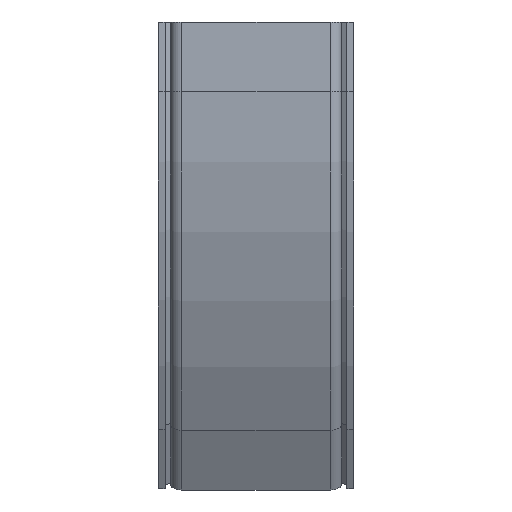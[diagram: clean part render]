
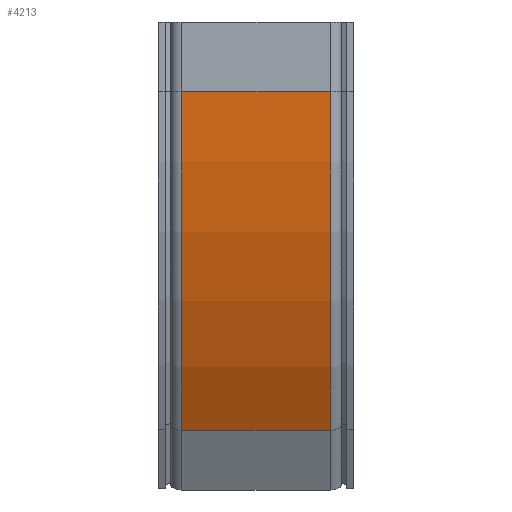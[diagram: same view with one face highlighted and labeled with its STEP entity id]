
A CAD part, left-side view. The second image highlights one B-rep face of the part: STEP entity #4213.
In plain terms, the highlighted cylindrical face has radius 392.5 mm (diameter 785 mm), a partial arc.
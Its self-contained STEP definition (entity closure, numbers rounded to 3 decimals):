
#148 = CARTESIAN_POINT ( 'NONE',  ( 350., -43., -40. ) ) ;
#255 = LINE ( 'NONE', #4714, #4229 ) ;
#278 = DIRECTION ( 'NONE',  ( 0., 1., 0. ) ) ;
#388 = EDGE_CURVE ( 'NONE', #907, #2530, #1961, .T. ) ;
#398 = CARTESIAN_POINT ( 'NONE',  ( 10.085, -43., -236.25 ) ) ;
#733 = AXIS2_PLACEMENT_3D ( 'NONE', #3989, #5093, #2152 ) ;
#895 = DIRECTION ( 'NONE',  ( 0., 1., 0. ) ) ;
#907 = VERTEX_POINT ( 'NONE', #4369 ) ;
#956 = ORIENTED_EDGE ( 'NONE', *, *, #3459, .T. ) ;
#1040 = ORIENTED_EDGE ( 'NONE', *, *, #4143, .T. ) ;
#1120 = CARTESIAN_POINT ( 'NONE',  ( -42.5, -43., -40. ) ) ;
#1196 = FACE_OUTER_BOUND ( 'NONE', #3946, .T. ) ;
#1844 = DIRECTION ( 'NONE',  ( 0., 1., 0. ) ) ;
#1856 = EDGE_CURVE ( 'NONE', #1945, #2530, #2761, .T. ) ;
#1908 = AXIS2_PLACEMENT_3D ( 'NONE', #2226, #895, #2963 ) ;
#1945 = VERTEX_POINT ( 'NONE', #1120 ) ;
#1961 = CIRCLE ( 'NONE', #733, 392.5 ) ;
#2053 = CYLINDRICAL_SURFACE ( 'NONE', #1908, 392.5 ) ;
#2084 = CARTESIAN_POINT ( 'NONE',  ( -42.5, 43., -40. ) ) ;
#2091 = CARTESIAN_POINT ( 'NONE',  ( -42.5, 0., -40. ) ) ;
#2152 = DIRECTION ( 'NONE',  ( 0., 0., 1. ) ) ;
#2226 = CARTESIAN_POINT ( 'NONE',  ( 350., 0., -40. ) ) ;
#2243 = DIRECTION ( 'NONE',  ( 0., 0., 1. ) ) ;
#2314 = VERTEX_POINT ( 'NONE', #398 ) ;
#2475 = VECTOR ( 'NONE', #278, 1000. ) ;
#2530 = VERTEX_POINT ( 'NONE', #2084 ) ;
#2615 = ORIENTED_EDGE ( 'NONE', *, *, #388, .F. ) ;
#2761 = LINE ( 'NONE', #2091, #2475 ) ;
#2963 = DIRECTION ( 'NONE',  ( 0., 0., 1. ) ) ;
#3459 = EDGE_CURVE ( 'NONE', #2314, #1945, #5085, .T. ) ;
#3602 = AXIS2_PLACEMENT_3D ( 'NONE', #148, #1844, #2243 ) ;
#3946 = EDGE_LOOP ( 'NONE', ( #4067, #2615, #1040, #956 ) ) ;
#3989 = CARTESIAN_POINT ( 'NONE',  ( 350., 43., -40. ) ) ;
#4067 = ORIENTED_EDGE ( 'NONE', *, *, #1856, .T. ) ;
#4143 = EDGE_CURVE ( 'NONE', #907, #2314, #255, .T. ) ;
#4213 = ADVANCED_FACE ( 'NONE', ( #1196 ), #2053, .T. ) ;
#4229 = VECTOR ( 'NONE', #4960, 1000. ) ;
#4369 = CARTESIAN_POINT ( 'NONE',  ( 10.085, 43., -236.25 ) ) ;
#4714 = CARTESIAN_POINT ( 'NONE',  ( 10.085, 43., -236.25 ) ) ;
#4960 = DIRECTION ( 'NONE',  ( 0., -1., 0. ) ) ;
#5085 = CIRCLE ( 'NONE', #3602, 392.5 ) ;
#5093 = DIRECTION ( 'NONE',  ( 0., 1., 0. ) ) ;
